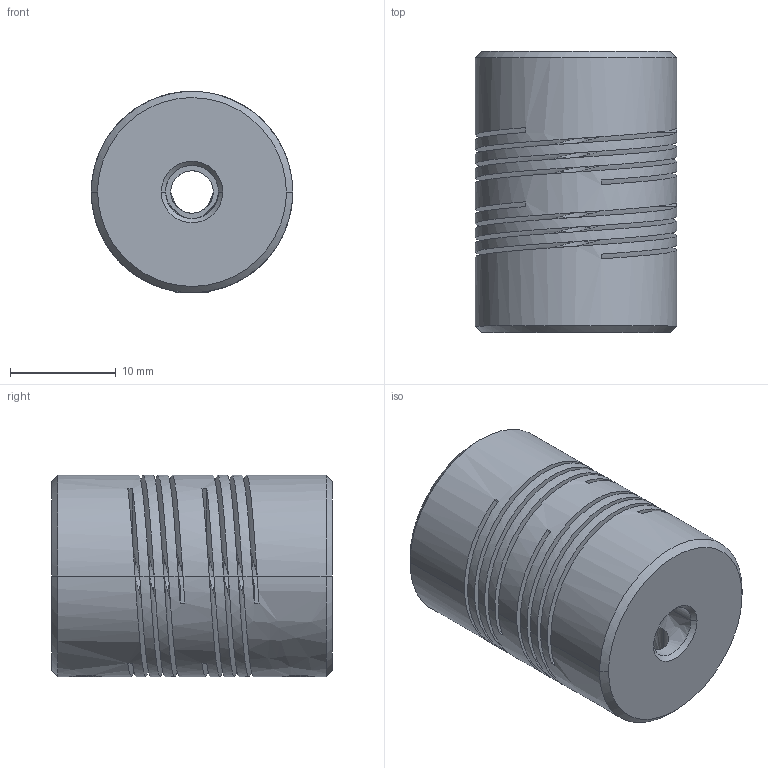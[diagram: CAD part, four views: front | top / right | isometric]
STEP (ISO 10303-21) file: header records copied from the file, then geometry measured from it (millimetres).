
FILE_DESCRIPTION((''),'2;1');
FILE_NAME('730_19','2026-02-24T',('SYSTEM'),(''),'PRO/ENGINEER BY PARAMETRIC TECHNOLOGY CORPORATION, 2016360','PRO/ENGINEER BY PARAMETRIC TECHNOLOGY CORPORATION, 2016360','');
FILE_SCHEMA(('AUTOMOTIVE_DESIGN { 1 0 10303 214 1 1 1 1 }'));
Length unit declared in the file: inch
Products named in the file (1): 730_19
Bounding box: 19 x 26.5 x 19 mm (x, y, z)
Volume: 6025.8 mm3; surface area: 6145.2 mm2
Topology: 1 solids, 1 shells, 100 faces, 296 edges, 190 vertices
Faces by surface type: bspline 100
Entity records: 7376 total; most frequent: CARTESIAN_POINT 5132, ORIENTED_EDGE 584, EDGE_CURVE 292, B_SPLINE_CURVE_WITH_KNOTS 220, VERTEX_POINT 190, COLOUR_RGB 111, EDGE_LOOP 110, FACE_OUTER_BOUND 100
